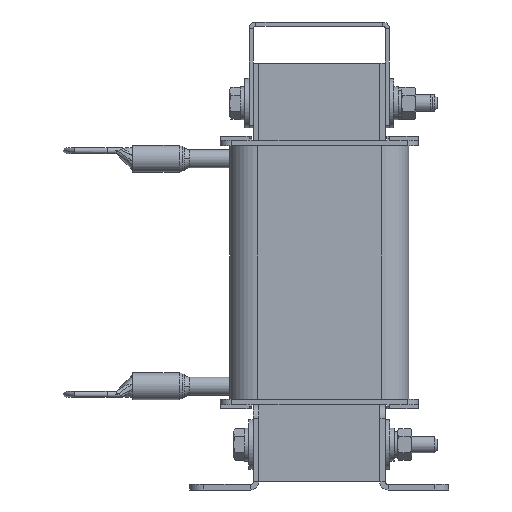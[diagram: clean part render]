
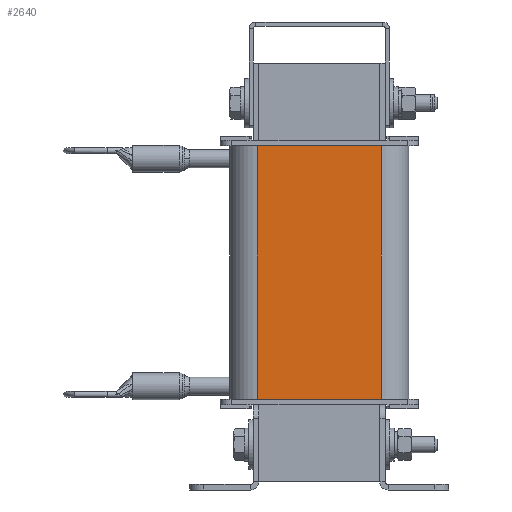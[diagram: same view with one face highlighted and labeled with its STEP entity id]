
A CAD part, left-side view. The second image highlights one B-rep face of the part: STEP entity #2640.
In plain terms, the highlighted planar face has unit normal (-1, 0, 0).
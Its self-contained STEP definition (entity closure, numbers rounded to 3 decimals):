
#2640=ADVANCED_FACE('',(#4538),#4540,.T.);
#4538=FACE_BOUND('',#4539,.T.);
#4539=EDGE_LOOP('',(#7388,#7389,#7390,#7391));
#4540=PLANE('',#4541);
#4541=AXIS2_PLACEMENT_3D('',#4542,#4543,#4544);
#4542=CARTESIAN_POINT('',(-27.,22.5,0.));
#4543=DIRECTION('',(-1.,0.,0.));
#4544=DIRECTION('',(0.,-1.,0.));
#7388=ORIENTED_EDGE('',*,*,#8337,.T.);
#7389=ORIENTED_EDGE('',*,*,#8365,.T.);
#7390=ORIENTED_EDGE('',*,*,#8354,.F.);
#7391=ORIENTED_EDGE('',*,*,#8366,.F.);
#8337=EDGE_CURVE('',#9310,#9307,#9311,.T.);
#8354=EDGE_CURVE('',#9342,#9344,#9345,.T.);
#8365=EDGE_CURVE('',#9307,#9344,#9360,.T.);
#8366=EDGE_CURVE('',#9310,#9342,#9361,.T.);
#9307=VERTEX_POINT('',#11352);
#9310=VERTEX_POINT('',#11358);
#9311=LINE('',#11359,#11360);
#9342=VERTEX_POINT('',#11427);
#9344=VERTEX_POINT('',#11432);
#9345=LINE('',#11433,#11434);
#9360=LINE('',#11471,#11472);
#9361=LINE('',#11474,#11475);
#11352=CARTESIAN_POINT('',(-27.,-22.5,0.));
#11358=CARTESIAN_POINT('',(-27.,22.5,0.));
#11359=CARTESIAN_POINT('',(-27.,22.5,0.));
#11360=VECTOR('',#11361,1.);
#11361=DIRECTION('',(0.,-1.,0.));
#11427=CARTESIAN_POINT('',(-27.,22.5,92.));
#11432=CARTESIAN_POINT('',(-27.,-22.5,92.));
#11433=CARTESIAN_POINT('',(-27.,22.5,92.));
#11434=VECTOR('',#11435,1.);
#11435=DIRECTION('',(0.,-1.,0.));
#11471=CARTESIAN_POINT('',(-27.,-22.5,0.));
#11472=VECTOR('',#11473,1.);
#11473=DIRECTION('',(0.,0.,1.));
#11474=CARTESIAN_POINT('',(-27.,22.5,0.));
#11475=VECTOR('',#11476,1.);
#11476=DIRECTION('',(0.,0.,1.));
